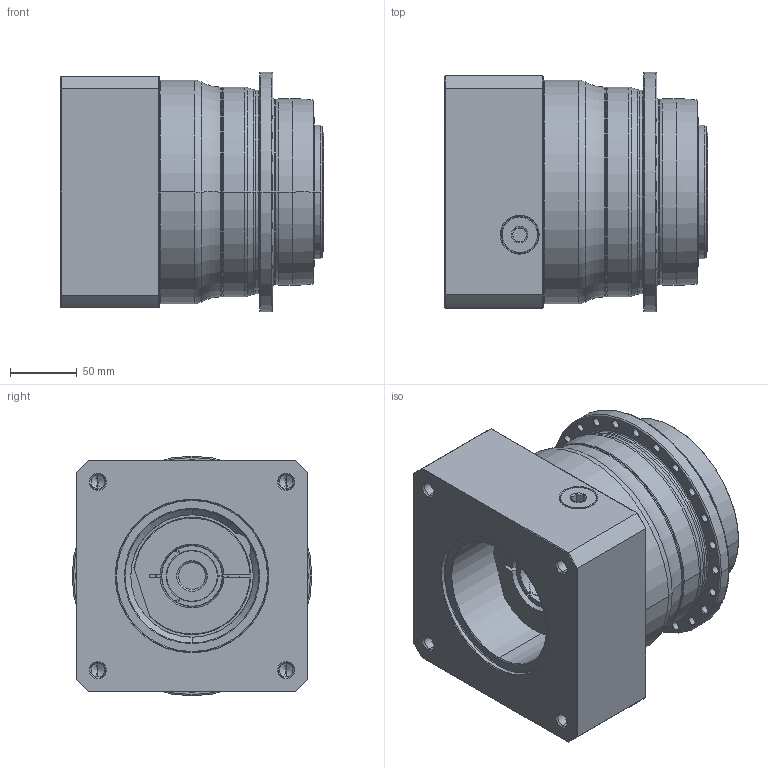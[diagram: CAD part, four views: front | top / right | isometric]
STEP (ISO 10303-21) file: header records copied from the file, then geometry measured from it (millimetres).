
FILE_DESCRIPTION((''),'2;1');
FILE_NAME('AP140_1ST_38-P0409910201_ASM','2018-05-25T',('d01226'),(''),'PRO/ENGINEER BY PARAMETRIC TECHNOLOGY CORPORATION, 2008410','PRO/ENGINEER BY PARAMETRIC TECHNOLOGY CORPORATION, 2008410','');
FILE_SCHEMA(('CONFIG_CONTROL_DESIGN'));
Length unit declared in the file: millimetre
Products named in the file (9): P0278501003; P0359501103; P1318510401; P0503900012; P0912554001; P1211500001; P0409910201; 21711422019; AP140_1ST_38-P0409910201_ASM
Assembly tree (8 placements, depth 2):
  AP140_1ST_38-P0409910201_ASM
    P0278501003
    P0359501103
    P1318510401
    P0503900012
    P0912554001
    P1211500001
    P0409910201
    21711422019
Bounding box: 197.5 x 180 x 180 mm (x, y, z)
Volume: 3765499.8 mm3; surface area: 403143.5 mm2
Topology: 9 solids, 34 shells, 639 faces, 1484 edges, 916 vertices
Faces by surface type: cylinder 270, cone 180, plane 108, torus 67, bspline 14
Entity records: 23248 total; most frequent: CARTESIAN_POINT 7868, DIRECTION 3537, ORIENTED_EDGE 2850, AXIS2_PLACEMENT_3D 1511, EDGE_CURVE 1476, VERTEX_POINT 916, CIRCLE 859, EDGE_LOOP 796
